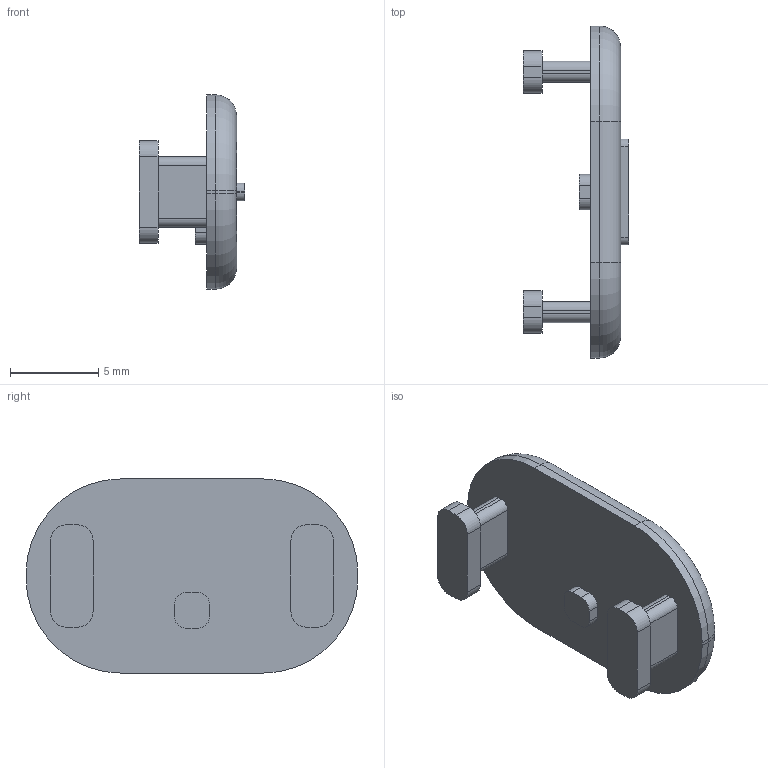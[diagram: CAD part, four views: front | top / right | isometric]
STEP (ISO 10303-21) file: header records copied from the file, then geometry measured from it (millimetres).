
FILE_DESCRIPTION(('Open CASCADE Model'),'2;1');
FILE_NAME('Open CASCADE Shape Model','2026-09-08T12:38:12',('Author'),( 'Open CASCADE'),'Open CASCADE STEP processor 7.7','Open CASCADE 7.7' ,'Unknown');
FILE_SCHEMA(('AUTOMOTIVE_DESIGN { 1 0 10303 214 1 1 1 1 }'));
Length unit declared in the file: millimetre
Products named in the file (1): Open CASCADE STEP translator 7.7 1
Bounding box: 5.95 x 18.8 x 11 mm (x, y, z)
Volume: 352 mm3; surface area: 551.2 mm2
Topology: 1 solids, 1 shells, 72 faces, 184 edges, 120 vertices
Faces by surface type: plane 36, cylinder 32, torus 4
Entity records: 4666 total; most frequent: CARTESIAN_POINT 889, DIRECTION 742, LINE 428, VECTOR 428, ORIENTED_EDGE 368, PCURVE 368, DEFINITIONAL_REPRESENTATION 368, EDGE_CURVE 184
